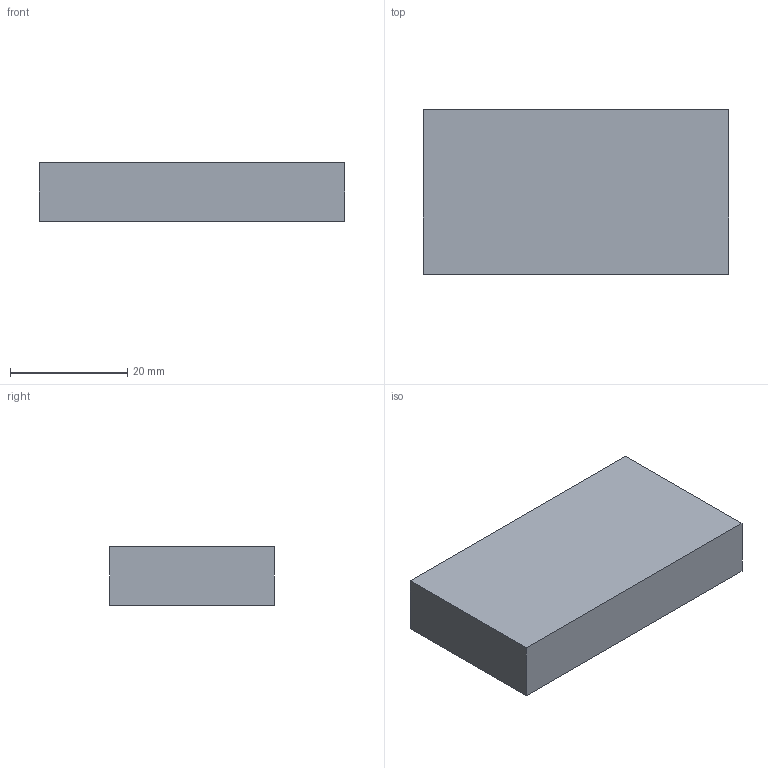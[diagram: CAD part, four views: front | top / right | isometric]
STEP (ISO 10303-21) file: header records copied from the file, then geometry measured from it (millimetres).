
FILE_DESCRIPTION(('Open CASCADE Model'),'2;1');
FILE_NAME('Open CASCADE Shape Model','2026-11-23T20:25:51',('Author'),( 'Open CASCADE'),'Open CASCADE STEP processor 7.9','Open CASCADE 7.9' ,'Unknown');
FILE_SCHEMA(('AUTOMOTIVE_DESIGN { 1 0 10303 214 1 1 1 1 }'));
Length unit declared in the file: millimetre
Products named in the file (1): Open CASCADE STEP translator 7.9 22
Bounding box: 52 x 28 x 10 mm (x, y, z)
Volume: 14560 mm3; surface area: 4512 mm2
Topology: 1 solids, 1 shells, 6 faces, 12 edges, 8 vertices
Faces by surface type: plane 6
Entity records: 322 total; most frequent: CARTESIAN_POINT 51, DIRECTION 50, LINE 36, VECTOR 36, ORIENTED_EDGE 24, PCURVE 24, DEFINITIONAL_REPRESENTATION 24, EDGE_CURVE 12
